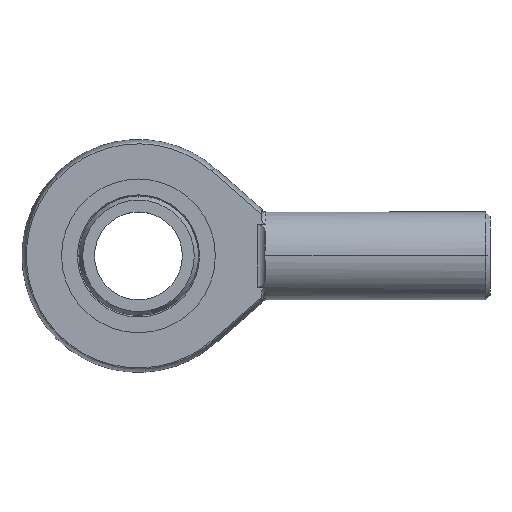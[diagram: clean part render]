
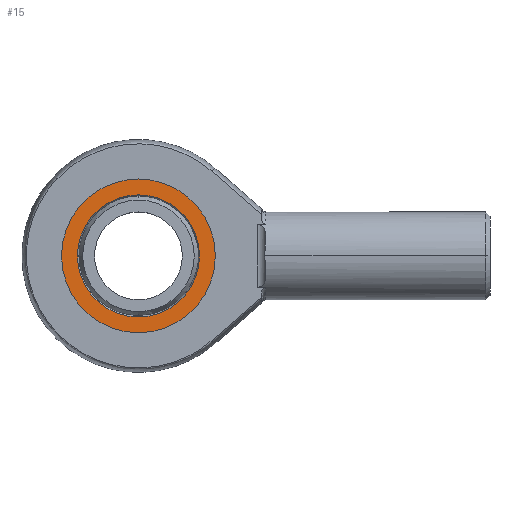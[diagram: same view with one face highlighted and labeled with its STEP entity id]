
A CAD part, top view. The second image highlights one B-rep face of the part: STEP entity #15.
In plain terms, the highlighted planar face has unit normal (0, 0, 1) as drawn and (-1, 0, 0) by its records, which use the part's own axes.
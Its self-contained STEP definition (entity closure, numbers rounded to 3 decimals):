
#6 = AXIS2_PLACEMENT_3D ( 'NONE', #960, #2094, #1609 ) ;
#15 = ADVANCED_FACE ( 'NONE', ( #1302, #673 ), #1967, .T. ) ;
#27 = EDGE_CURVE ( 'NONE', #248, #177, #881, .T. ) ;
#177 = VERTEX_POINT ( 'NONE', #411 ) ;
#182 = EDGE_CURVE ( 'NONE', #177, #248, #746, .T. ) ;
#239 = CARTESIAN_POINT ( 'NONE',  ( -6.75, 0., 0. ) ) ;
#248 = VERTEX_POINT ( 'NONE', #1187 ) ;
#394 = ORIENTED_EDGE ( 'NONE', *, *, #1703, .T. ) ;
#399 = CARTESIAN_POINT ( 'NONE',  ( -6.75, 0., 0. ) ) ;
#411 = CARTESIAN_POINT ( 'NONE',  ( -6.75, 0., 17.5 ) ) ;
#485 = DIRECTION ( 'NONE',  ( 0., 0., 1. ) ) ;
#566 = ORIENTED_EDGE ( 'NONE', *, *, #27, .T. ) ;
#673 = FACE_OUTER_BOUND ( 'NONE', #1777, .T. ) ;
#746 = CIRCLE ( 'NONE', #1860, 17.5 ) ;
#780 = ORIENTED_EDGE ( 'NONE', *, *, #2117, .T. ) ;
#881 = CIRCLE ( 'NONE', #1354, 17.5 ) ;
#957 = ORIENTED_EDGE ( 'NONE', *, *, #182, .T. ) ;
#960 = CARTESIAN_POINT ( 'NONE',  ( -6.75, 0., 0. ) ) ;
#981 = CARTESIAN_POINT ( 'NONE',  ( -6.75, -17.5, 0. ) ) ;
#1061 = DIRECTION ( 'NONE',  ( 0., 0., 1. ) ) ;
#1142 = DIRECTION ( 'NONE',  ( 1., 0., 0. ) ) ;
#1148 = CIRCLE ( 'NONE', #6, 13.895 ) ;
#1156 = CARTESIAN_POINT ( 'NONE',  ( -6.75, 0., 0. ) ) ;
#1187 = CARTESIAN_POINT ( 'NONE',  ( -6.75, 0., -17.5 ) ) ;
#1196 = VERTEX_POINT ( 'NONE', #1424 ) ;
#1302 = FACE_BOUND ( 'NONE', #1648, .T. ) ;
#1354 = AXIS2_PLACEMENT_3D ( 'NONE', #239, #1675, #1376 ) ;
#1376 = DIRECTION ( 'NONE',  ( 0., 0., 1. ) ) ;
#1414 = VERTEX_POINT ( 'NONE', #2051 ) ;
#1424 = CARTESIAN_POINT ( 'NONE',  ( -6.75, 0., -13.895 ) ) ;
#1556 = DIRECTION ( 'NONE',  ( -1., 0., 0. ) ) ;
#1609 = DIRECTION ( 'NONE',  ( 0., 0., 1. ) ) ;
#1648 = EDGE_LOOP ( 'NONE', ( #780, #394 ) ) ;
#1675 = DIRECTION ( 'NONE',  ( -1., 0., 0. ) ) ;
#1703 = EDGE_CURVE ( 'NONE', #1196, #1414, #1963, .T. ) ;
#1777 = EDGE_LOOP ( 'NONE', ( #957, #566 ) ) ;
#1809 = DIRECTION ( 'NONE',  ( 0., 0., 1. ) ) ;
#1828 = AXIS2_PLACEMENT_3D ( 'NONE', #981, #1940, #485 ) ;
#1860 = AXIS2_PLACEMENT_3D ( 'NONE', #399, #1556, #1061 ) ;
#1940 = DIRECTION ( 'NONE',  ( -1., 0., 0. ) ) ;
#1963 = CIRCLE ( 'NONE', #2061, 13.895 ) ;
#1967 = PLANE ( 'NONE',  #1828 ) ;
#2051 = CARTESIAN_POINT ( 'NONE',  ( -6.75, 0., 13.895 ) ) ;
#2061 = AXIS2_PLACEMENT_3D ( 'NONE', #1156, #1142, #1809 ) ;
#2094 = DIRECTION ( 'NONE',  ( 1., 0., 0. ) ) ;
#2117 = EDGE_CURVE ( 'NONE', #1414, #1196, #1148, .T. ) ;
